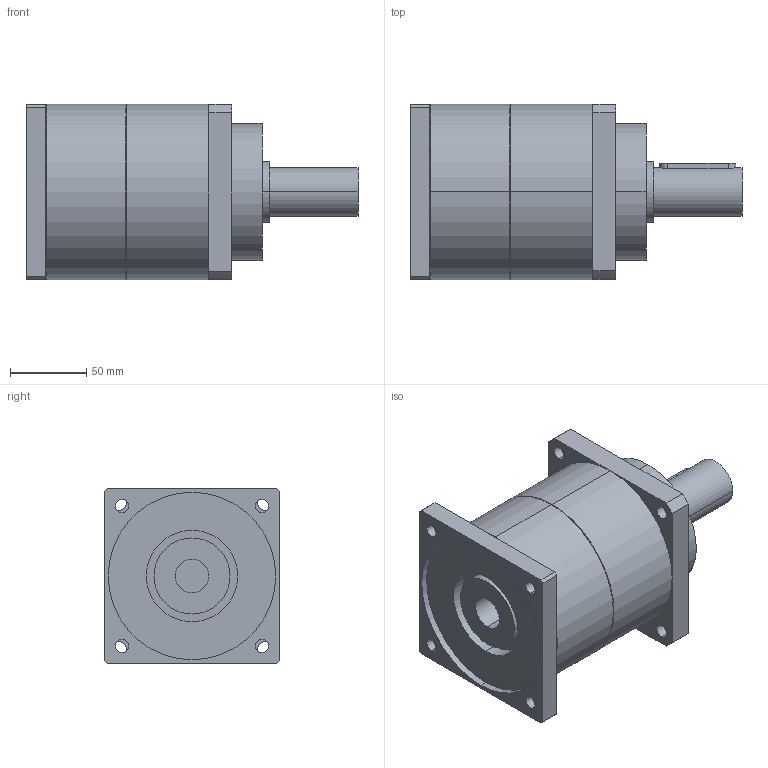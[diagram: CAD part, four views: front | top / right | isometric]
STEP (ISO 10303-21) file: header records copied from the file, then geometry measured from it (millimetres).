
FILE_DESCRIPTION(('CoCreate Modeling STEP Export'),'2;1');
FILE_NAME('GPT120_ig-3-4-5-7-10_32_B5A_22_P07.stp','2015-02-04T16:59:23',(''),(''),'CoCreate Modeling STEP processor for AP214 (Solid Model)','CoCreate Modeling 16.00C 25-Feb-2009 (C) Parametric Technology GmbH','');
FILE_SCHEMA(('AUTOMOTIVE_DESIGN { 1 0 10303 214 1 1 1 1 }'));
Length unit declared in the file: millimetre
Products named in the file (2): GPT120_ig-3-4-5-7-10_32_B5A_22_P07
Assembly tree (1 placements, depth 2):
  GPT120_ig-3-4-5-7-10_32_B5A_22_P07
    GPT120_ig-3-4-5-7-10_32_B5A_22_P07
Bounding box: 218 x 115 x 115 mm (x, y, z)
Volume: 1578525 mm3; surface area: 107457.7 mm2
Topology: 1 solids, 1 shells, 77 faces, 204 edges, 139 vertices
Faces by surface type: cylinder 46, plane 27, cone 4
Entity records: 2568 total; most frequent: CARTESIAN_POINT 759, ORIENTED_EDGE 408, DIRECTION 320, EDGE_CURVE 204, VERTEX_POINT 139, AXIS2_PLACEMENT_3D 118, EDGE_LOOP 103, VECTOR 84
